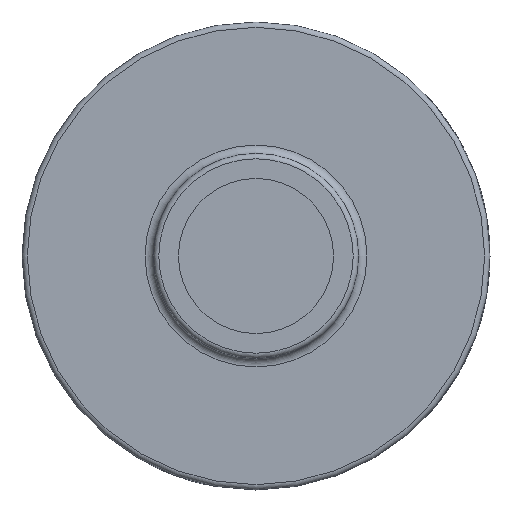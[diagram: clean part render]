
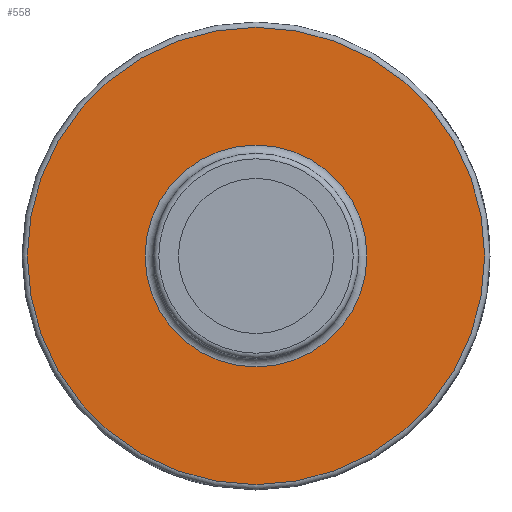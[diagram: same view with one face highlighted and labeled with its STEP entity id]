
A CAD part, left-side view. The second image highlights one B-rep face of the part: STEP entity #558.
In plain terms, the highlighted planar face has unit normal (-1, 0, 0).
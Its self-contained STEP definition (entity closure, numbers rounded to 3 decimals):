
#558 = ADVANCED_FACE( '', ( #1176, #1177 ), #1178, .F. );
#1176 = FACE_BOUND( '', #2628, .T. );
#1177 = FACE_OUTER_BOUND( '', #2629, .T. );
#1178 = PLANE( '', #2630 );
#2628 = EDGE_LOOP( '', ( #4085 ) );
#2629 = EDGE_LOOP( '', ( #4086 ) );
#2630 = AXIS2_PLACEMENT_3D( '', #4087, #4088, #4089 );
#4085 = ORIENTED_EDGE( '', *, *, #4686, .F. );
#4086 = ORIENTED_EDGE( '', *, *, #5218, .T. );
#4087 = CARTESIAN_POINT( '', ( 12.033, 0., 10.535 ) );
#4088 = DIRECTION( '', ( 1., 0., 0. ) );
#4089 = DIRECTION( '', ( 0., 0., -1. ) );
#4686 = EDGE_CURVE( '', #5457, #5457, #5458, .T. );
#5218 = EDGE_CURVE( '', #6283, #6283, #6284, .T. );
#5457 = VERTEX_POINT( '', #6603 );
#5458 = CIRCLE( '', #6604, 10.535 );
#6283 = VERTEX_POINT( '', #8549 );
#6284 = CIRCLE( '', #8550, 21.717 );
#6603 = CARTESIAN_POINT( '', ( 12.033, 0., 10.535 ) );
#6604 = AXIS2_PLACEMENT_3D( '', #8913, #8914, #8915 );
#8549 = CARTESIAN_POINT( '', ( 12.033, 0., 21.717 ) );
#8550 = AXIS2_PLACEMENT_3D( '', #8949, #8950, #8951 );
#8913 = CARTESIAN_POINT( '', ( 12.033, 0., 0. ) );
#8914 = DIRECTION( '', ( -1., 0., 0. ) );
#8915 = DIRECTION( '', ( 0., 0., 1. ) );
#8949 = CARTESIAN_POINT( '', ( 12.033, 0., 0. ) );
#8950 = DIRECTION( '', ( -1., 0., 0. ) );
#8951 = DIRECTION( '', ( 0., 0., 1. ) );
